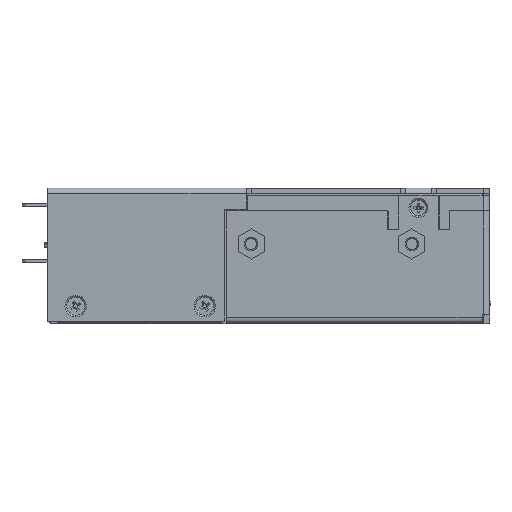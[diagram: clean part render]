
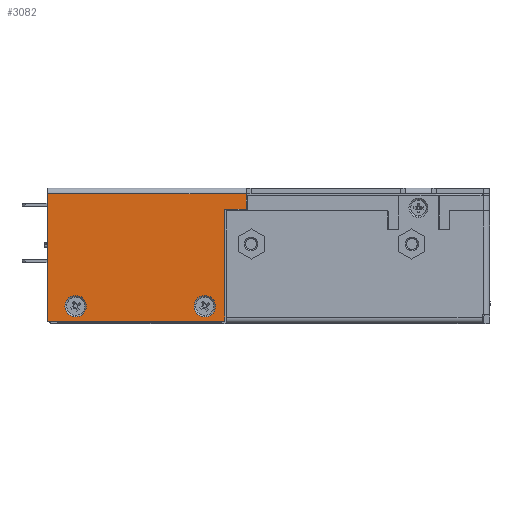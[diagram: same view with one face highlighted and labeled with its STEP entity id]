
A CAD part, top view. The second image highlights one B-rep face of the part: STEP entity #3082.
In plain terms, the highlighted planar face has unit normal (0, 0, 1).
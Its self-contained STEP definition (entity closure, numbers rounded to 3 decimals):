
#902 = ORIENTED_EDGE ( 'NONE', *, *, #30576, .T. ) ;
#1566 = LINE ( 'NONE', #32662, #31882 ) ;
#2508 = AXIS2_PLACEMENT_3D ( 'NONE', #42137, #10755, #38469 ) ;
#3082 = ADVANCED_FACE ( 'NONE', ( #41726, #22024, #24093 ), #30811, .T. ) ;
#3605 = ORIENTED_EDGE ( 'NONE', *, *, #44315, .T. ) ;
#3943 = CARTESIAN_POINT ( 'NONE',  ( 59.125, 39.25, 77.7 ) ) ;
#4455 = VECTOR ( 'NONE', #34006, 1000. ) ;
#5723 = VERTEX_POINT ( 'NONE', #39165 ) ;
#9425 = AXIS2_PLACEMENT_3D ( 'NONE', #39817, #20105, #35903 ) ;
#9595 = CARTESIAN_POINT ( 'NONE',  ( 53.6, 21.849, 77.7 ) ) ;
#10322 = CARTESIAN_POINT ( 'NONE',  ( 53.6, 0.75, 77.7 ) ) ;
#10747 = VECTOR ( 'NONE', #25110, 1000. ) ;
#10755 = DIRECTION ( 'NONE',  ( 0., 0., -1. ) ) ;
#12209 = LINE ( 'NONE', #3943, #41993 ) ;
#12212 = EDGE_CURVE ( 'NONE', #46916, #44106, #36753, .T. ) ;
#12616 = EDGE_LOOP ( 'NONE', ( #26738, #24062, #48262, #22526, #23206, #40020 ) ) ;
#13166 = EDGE_CURVE ( 'NONE', #41906, #43621, #24082, .T. ) ;
#13466 = LINE ( 'NONE', #9595, #27859 ) ;
#13912 = DIRECTION ( 'NONE',  ( 0., 1., 0. ) ) ;
#13974 = CARTESIAN_POINT ( 'NONE',  ( 0., 39.25, 77.7 ) ) ;
#14768 = VERTEX_POINT ( 'NONE', #38866 ) ;
#15069 = LINE ( 'NONE', #18441, #4455 ) ;
#15200 = CIRCLE ( 'NONE', #36682, 3.25 ) ;
#15953 = EDGE_CURVE ( 'NONE', #44106, #46236, #13466, .T. ) ;
#16317 = CARTESIAN_POINT ( 'NONE',  ( 28.951, 0.75, 77.7 ) ) ;
#16741 = DIRECTION ( 'NONE',  ( 0., 1., 0. ) ) ;
#16991 = EDGE_CURVE ( 'NONE', #43220, #5723, #12209, .T. ) ;
#18441 = CARTESIAN_POINT ( 'NONE',  ( 28.951, 34.6, 77.7 ) ) ;
#18715 = VERTEX_POINT ( 'NONE', #25337 ) ;
#19075 = ORIENTED_EDGE ( 'NONE', *, *, #47124, .T. ) ;
#19728 = EDGE_CURVE ( 'NONE', #46916, #43220, #40353, .T. ) ;
#20029 = ORIENTED_EDGE ( 'NONE', *, *, #13166, .T. ) ;
#20105 = DIRECTION ( 'NONE',  ( 0., 0., -1. ) ) ;
#22024 = FACE_BOUND ( 'NONE', #46618, .T. ) ;
#22526 = ORIENTED_EDGE ( 'NONE', *, *, #16991, .F. ) ;
#23047 = DIRECTION ( 'NONE',  ( 0., 1., 0. ) ) ;
#23206 = ORIENTED_EDGE ( 'NONE', *, *, #19728, .F. ) ;
#23282 = CARTESIAN_POINT ( 'NONE',  ( 0., 0.75, 77.7 ) ) ;
#23866 = EDGE_CURVE ( 'NONE', #14768, #5723, #1566, .T. ) ;
#24062 = ORIENTED_EDGE ( 'NONE', *, *, #30045, .T. ) ;
#24082 = CIRCLE ( 'NONE', #2508, 3.25 ) ;
#24093 = FACE_BOUND ( 'NONE', #47085, .T. ) ;
#24815 = CARTESIAN_POINT ( 'NONE',  ( 8.5, 2., 77.7 ) ) ;
#25110 = DIRECTION ( 'NONE',  ( 1., 0., 0. ) ) ;
#25332 = CARTESIAN_POINT ( 'NONE',  ( 47.6, 5.25, 77.7 ) ) ;
#25337 = CARTESIAN_POINT ( 'NONE',  ( 47.6, 2., 77.7 ) ) ;
#25419 = DIRECTION ( 'NONE',  ( 0., 1., 0. ) ) ;
#26738 = ORIENTED_EDGE ( 'NONE', *, *, #15953, .T. ) ;
#27128 = VECTOR ( 'NONE', #16741, 1000. ) ;
#27859 = VECTOR ( 'NONE', #25419, 1000. ) ;
#28030 = DIRECTION ( 'NONE',  ( 1., 0., 0. ) ) ;
#30045 = EDGE_CURVE ( 'NONE', #46236, #14768, #15069, .T. ) ;
#30125 = CARTESIAN_POINT ( 'NONE',  ( 47.6, 8.5, 77.7 ) ) ;
#30576 = EDGE_CURVE ( 'NONE', #50275, #18715, #40859, .T. ) ;
#30811 = PLANE ( 'NONE',  #35991 ) ;
#31882 = VECTOR ( 'NONE', #40187, 1000. ) ;
#32662 = CARTESIAN_POINT ( 'NONE',  ( 60.1, 21.849, 77.7 ) ) ;
#34006 = DIRECTION ( 'NONE',  ( 1., 0., 0. ) ) ;
#34977 = CARTESIAN_POINT ( 'NONE',  ( 28.951, 21.849, 77.7 ) ) ;
#35470 = CARTESIAN_POINT ( 'NONE',  ( 8.5, 5.25, 77.7 ) ) ;
#35903 = DIRECTION ( 'NONE',  ( 0., 1., 0. ) ) ;
#35991 = AXIS2_PLACEMENT_3D ( 'NONE', #34977, #39878, #43777 ) ;
#36682 = AXIS2_PLACEMENT_3D ( 'NONE', #35470, #39082, #23047 ) ;
#36753 = LINE ( 'NONE', #16317, #10747 ) ;
#37987 = DIRECTION ( 'NONE',  ( 0., 0., -1. ) ) ;
#38469 = DIRECTION ( 'NONE',  ( 0., 1., 0. ) ) ;
#38866 = CARTESIAN_POINT ( 'NONE',  ( 60.1, 34.6, 77.7 ) ) ;
#39082 = DIRECTION ( 'NONE',  ( 0., 0., -1. ) ) ;
#39165 = CARTESIAN_POINT ( 'NONE',  ( 60.1, 39.25, 77.7 ) ) ;
#39600 = CARTESIAN_POINT ( 'NONE',  ( 0., 40.75, 77.7 ) ) ;
#39817 = CARTESIAN_POINT ( 'NONE',  ( 47.6, 5.25, 77.7 ) ) ;
#39878 = DIRECTION ( 'NONE',  ( 0., 0., 1. ) ) ;
#40020 = ORIENTED_EDGE ( 'NONE', *, *, #12212, .T. ) ;
#40187 = DIRECTION ( 'NONE',  ( 0., 1., 0. ) ) ;
#40206 = CIRCLE ( 'NONE', #47702, 3.25 ) ;
#40353 = LINE ( 'NONE', #39600, #27128 ) ;
#40859 = CIRCLE ( 'NONE', #9425, 3.25 ) ;
#41726 = FACE_OUTER_BOUND ( 'NONE', #12616, .T. ) ;
#41906 = VERTEX_POINT ( 'NONE', #24815 ) ;
#41993 = VECTOR ( 'NONE', #28030, 1000. ) ;
#42137 = CARTESIAN_POINT ( 'NONE',  ( 8.5, 5.25, 77.7 ) ) ;
#43220 = VERTEX_POINT ( 'NONE', #13974 ) ;
#43621 = VERTEX_POINT ( 'NONE', #44238 ) ;
#43777 = DIRECTION ( 'NONE',  ( 0., -1., 0. ) ) ;
#44106 = VERTEX_POINT ( 'NONE', #10322 ) ;
#44238 = CARTESIAN_POINT ( 'NONE',  ( 8.5, 8.5, 77.7 ) ) ;
#44315 = EDGE_CURVE ( 'NONE', #43621, #41906, #15200, .T. ) ;
#46162 = CARTESIAN_POINT ( 'NONE',  ( 53.6, 34.6, 77.7 ) ) ;
#46236 = VERTEX_POINT ( 'NONE', #46162 ) ;
#46618 = EDGE_LOOP ( 'NONE', ( #3605, #20029 ) ) ;
#46916 = VERTEX_POINT ( 'NONE', #23282 ) ;
#47085 = EDGE_LOOP ( 'NONE', ( #902, #19075 ) ) ;
#47124 = EDGE_CURVE ( 'NONE', #18715, #50275, #40206, .T. ) ;
#47702 = AXIS2_PLACEMENT_3D ( 'NONE', #25332, #37987, #13912 ) ;
#48262 = ORIENTED_EDGE ( 'NONE', *, *, #23866, .T. ) ;
#50275 = VERTEX_POINT ( 'NONE', #30125 ) ;
